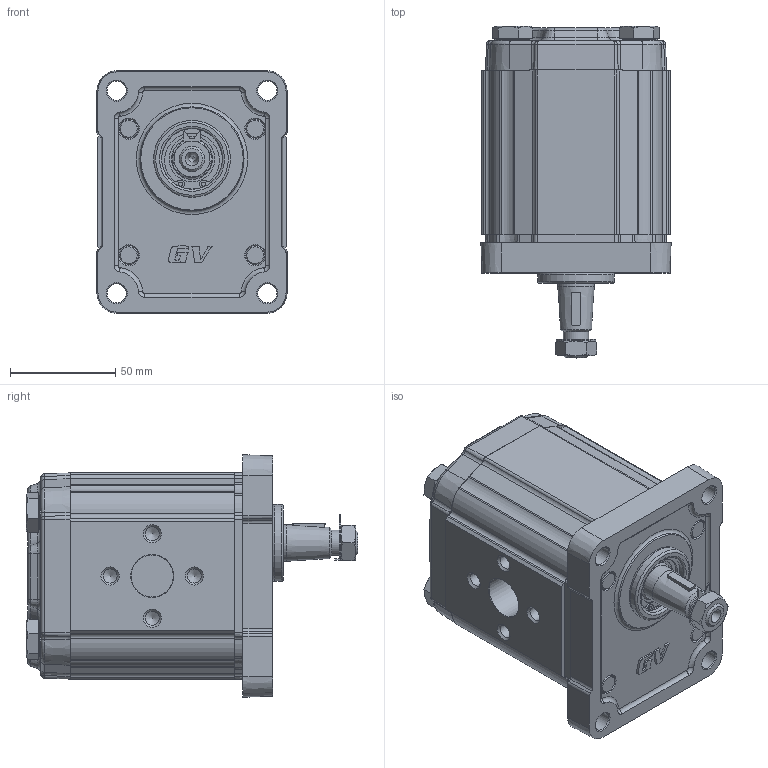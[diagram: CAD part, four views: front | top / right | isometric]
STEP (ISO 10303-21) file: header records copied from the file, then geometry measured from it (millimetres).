
FILE_DESCRIPTION(/* description */ ('Unknown'),/* implementation_level */ '2;1');
FILE_NAME(/* name */ 'G2P5502EPOA',/* time_stamp */ '2026-06-03T17:52:24+02:00',/* author */ ('Unknown'),/* organization */ ('Unknown'),/* preprocessor_version */ 'ST-DEVELOPER v16.7',/* originating_system */ 'Solid Edge',/* authorisation */ 'Unknown');
FILE_SCHEMA (('AUTOMOTIVE_DESIGN {1 0 10303 214 3 1 1}'));
Length unit declared in the file: millimetre
Products named in the file (5): G2P5502EPOA; G2P02; 2E; G2POH78; GP201-A
Assembly tree (4 placements, depth 2):
  G2P5502EPOA
    G2P02
    2E
    G2POH78
    GP201-A
Bounding box: 90.29 x 157.55 x 115.1 mm (x, y, z)
Volume: 871076.9 mm3; surface area: 119229.7 mm2
Topology: 4 solids, 5 shells, 976 faces, 3315 edges, 2089 vertices
Faces by surface type: cylinder 387, plane 342, cone 134, torus 57, bspline 56
Full cylindrical faces by diameter (mm): 2 x2, 4 x2, 4.917 x4, 6.647 x4, 9 x4, 9.9 x4, 10 x4, 10.5 x4, 11.5 x4, 12 x2, 12.5 x1, 13.5 x1, 15 x4, 15.8 x4, 16 x4, 17.42 x1, 17.48 x2, 18 x4, 18.724 x1, 19 x1, 20 x1, 20.595 x1, 21.741 x1, 25 x1, 25.834 x1, 28.56 x1, 28.57 x1, 28.8 x1, 30.5 x1, 36.5 x1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
Entity records: 48216 total; most frequent: CARTESIAN_POINT 13156, ORIENTED_EDGE 6238, DIRECTION 5607, EDGE_CURVE 3119, AXIS2_PLACEMENT_3D 2149, VERTEX_POINT 2042, LINE 1309, VECTOR 1309
